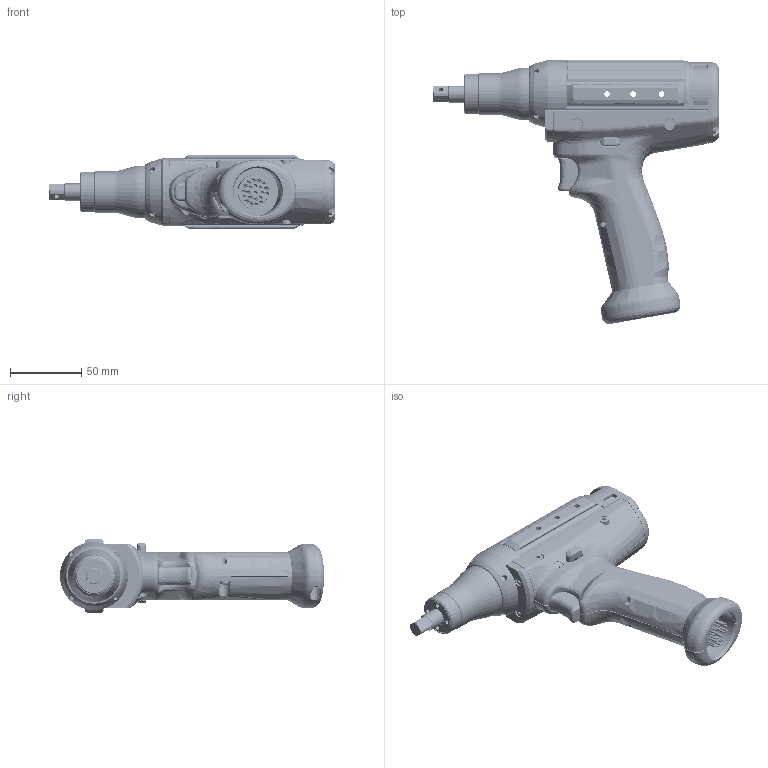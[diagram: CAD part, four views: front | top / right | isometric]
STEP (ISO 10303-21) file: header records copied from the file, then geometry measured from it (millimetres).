
FILE_DESCRIPTION(('STEP AP203'),'2;1');
FILE_NAME('EH2-R0010-P.stp','2009-03-17T16:59:38',(''),(''),'2008.1.107','THINKDESIGN','');
FILE_SCHEMA(('CONFIG_CONTROL_DESIGN'));
Bounding box: 201.55 x 185.88 x 52 mm (x, y, z)
Volume: 89521.5 mm3; surface area: 163992.3 mm2
Topology: 24 solids, 24 shells, 2695 faces, 18043 edges, 17280 vertices
Faces by surface type: bspline 2030, plane 578, cylinder 87
Full cylindrical faces by diameter (mm): 1 x6, 1.5 x6, 3 x4, 3.5 x1, 4.1 x4, 8.6 x3, 8.9 x2, 9 x2, 11 x1, 12 x1, 13 x1, 17 x1, 20 x1, 24 x1, 25 x1, 35 x1, 37.4 x1, 45 x1, 45.5 x1, 45.7 x1, 48 x1
Entity records: 280704 total; most frequent: CARTESIAN_POINT 217334, COMPOSITE_CURVE_SEGMENT 14935, B_SPLINE_CURVE_WITH_KNOTS 9951, DIRECTION 5754, ORIENTED_EDGE 5698, VECTOR 3458, LINE 3458, EDGE_CURVE 2849
